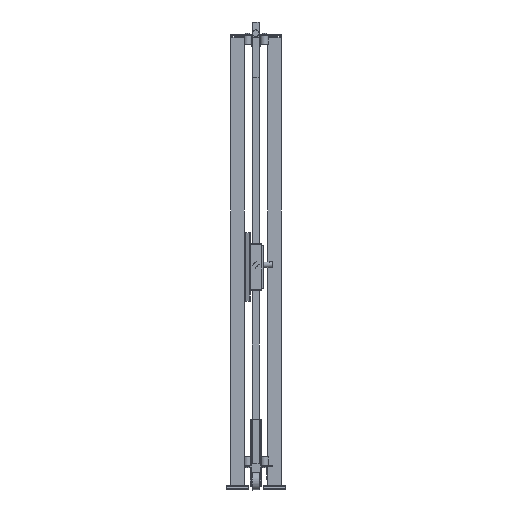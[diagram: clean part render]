
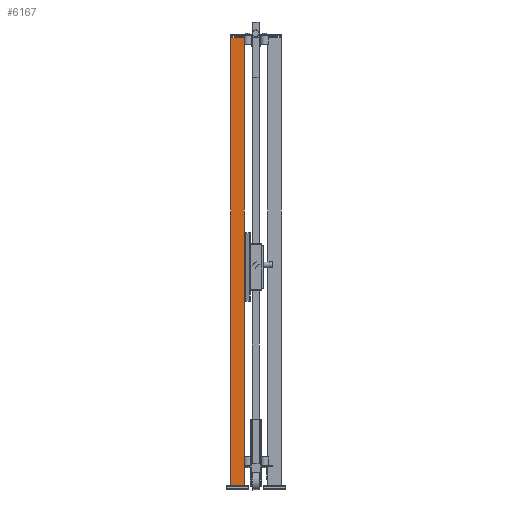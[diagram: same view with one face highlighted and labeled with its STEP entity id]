
A CAD part, left-side view. The second image highlights one B-rep face of the part: STEP entity #6167.
In plain terms, the highlighted planar face has unit normal (-1, 0, 0) as drawn and (0, 1, 0) by its records, which use the part's own axes.
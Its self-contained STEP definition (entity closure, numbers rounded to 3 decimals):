
#593=FACE_OUTER_BOUND('',#1089,.T.);
#1089=EDGE_LOOP('',(#3845,#3846,#3847,#3848));
#1653=VERTEX_POINT('',#13399);
#1654=VERTEX_POINT('',#13401);
#1656=VERTEX_POINT('',#13407);
#1659=VERTEX_POINT('',#13412);
#2483=EDGE_CURVE('',#1653,#1654,#7329,.T.);
#2489=EDGE_CURVE('',#1659,#1656,#7335,.T.);
#2492=EDGE_CURVE('',#1654,#1659,#7338,.T.);
#2493=EDGE_CURVE('',#1653,#1656,#7339,.T.);
#3845=ORIENTED_EDGE('',*,*,#2493,.T.);
#3846=ORIENTED_EDGE('',*,*,#2489,.F.);
#3847=ORIENTED_EDGE('',*,*,#2492,.F.);
#3848=ORIENTED_EDGE('',*,*,#2483,.F.);
#5741=PLANE('',#9329);
#6167=ADVANCED_FACE('',(#593),#5741,.F.);
#7329=LINE('',#13402,#8433);
#7335=LINE('',#13414,#8439);
#7338=LINE('',#13419,#8442);
#7339=LINE('',#13421,#8443);
#8433=VECTOR('',#10502,1.);
#8439=VECTOR('',#10510,1.);
#8442=VECTOR('',#10517,1.);
#8443=VECTOR('',#10520,1.);
#9329=AXIS2_PLACEMENT_3D('',#13420,#10518,#10519);
#10502=DIRECTION('',(-1.,0.,0.));
#10510=DIRECTION('',(1.,0.,0.));
#10517=DIRECTION('',(0.,0.,-1.));
#10518=DIRECTION('center_axis',(0.,-1.,0.));
#10519=DIRECTION('ref_axis',(0.,0.,-1.));
#10520=DIRECTION('',(0.,0.,-1.));
#13399=CARTESIAN_POINT('',(30.,30.,2020.));
#13401=CARTESIAN_POINT('',(-30.,30.,2020.));
#13402=CARTESIAN_POINT('',(0.,30.,2020.));
#13407=CARTESIAN_POINT('',(30.,30.,20.));
#13412=CARTESIAN_POINT('',(-30.,30.,20.));
#13414=CARTESIAN_POINT('',(0.,30.,20.));
#13419=CARTESIAN_POINT('',(-30.,30.,1020.));
#13420=CARTESIAN_POINT('Origin',(0.,30.,
1020.));
#13421=CARTESIAN_POINT('',(30.,30.,1020.));
